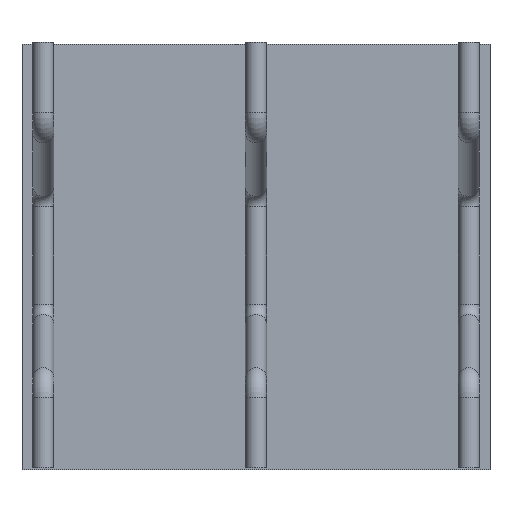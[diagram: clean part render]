
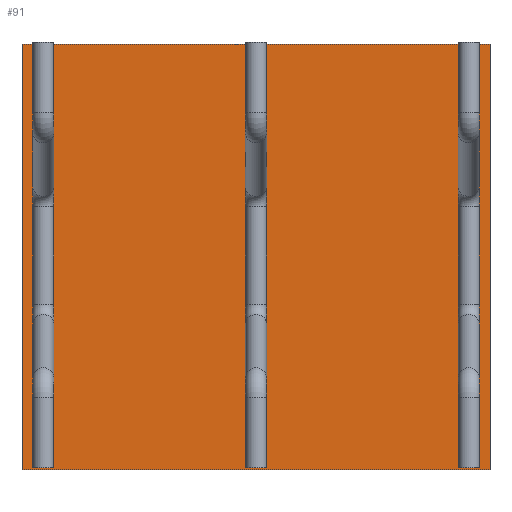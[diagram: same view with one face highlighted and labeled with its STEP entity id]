
A CAD part, top view. The second image highlights one B-rep face of the part: STEP entity #91.
In plain terms, the highlighted planar face has unit normal (0, 0, 1).
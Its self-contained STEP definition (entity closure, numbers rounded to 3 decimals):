
#52=CARTESIAN_POINT('Axis2P3D Location',(0.,0.,0.)) ;
#57=CARTESIAN_POINT('Line Origine',(0.,500.,0.)) ;
#61=CARTESIAN_POINT('Vertex',(550.,500.,0.)) ;
#63=CARTESIAN_POINT('Vertex',(-550.,500.,0.)) ;
#66=CARTESIAN_POINT('Line Origine',(-550.,0.,0.)) ;
#70=CARTESIAN_POINT('Vertex',(-550.,-500.,0.)) ;
#73=CARTESIAN_POINT('Line Origine',(0.,-500.,0.)) ;
#77=CARTESIAN_POINT('Vertex',(550.,-500.,0.)) ;
#80=CARTESIAN_POINT('Line Origine',(550.,0.,0.)) ;
#53=DIRECTION('Axis2P3D Direction',(0.,0.,1.)) ;
#54=DIRECTION('Axis2P3D XDirection',(1.,0.,0.)) ;
#58=DIRECTION('Vector Direction',(1.,0.,0.)) ;
#67=DIRECTION('Vector Direction',(0.,1.,0.)) ;
#74=DIRECTION('Vector Direction',(-1.,0.,0.)) ;
#81=DIRECTION('Vector Direction',(0.,-1.,0.)) ;
#55=AXIS2_PLACEMENT_3D('Plane Axis2P3D',#52,#53,#54) ;
#86=ORIENTED_EDGE('',*,*,#65,.T.) ;
#87=ORIENTED_EDGE('',*,*,#72,.T.) ;
#88=ORIENTED_EDGE('',*,*,#79,.T.) ;
#89=ORIENTED_EDGE('',*,*,#84,.T.) ;
#59=VECTOR('Line Direction',#58,1.) ;
#68=VECTOR('Line Direction',#67,1.) ;
#75=VECTOR('Line Direction',#74,1.) ;
#82=VECTOR('Line Direction',#81,1.) ;
#91=ADVANCED_FACE('Fill.1',(#90),#56,.T.) ;
#65=EDGE_CURVE('',#62,#64,#60,.F.) ;
#72=EDGE_CURVE('',#64,#71,#69,.F.) ;
#79=EDGE_CURVE('',#71,#78,#76,.F.) ;
#84=EDGE_CURVE('',#78,#62,#83,.F.) ;
#85=EDGE_LOOP('',(#86,#87,#88,#89)) ;
#90=FACE_OUTER_BOUND('',#85,.T.) ;
#60=LINE('Line',#57,#59) ;
#69=LINE('Line',#66,#68) ;
#76=LINE('Line',#73,#75) ;
#83=LINE('Line',#80,#82) ;
#56=PLANE('',#55) ;
#62=VERTEX_POINT('',#61) ;
#64=VERTEX_POINT('',#63) ;
#71=VERTEX_POINT('',#70) ;
#78=VERTEX_POINT('',#77) ;
